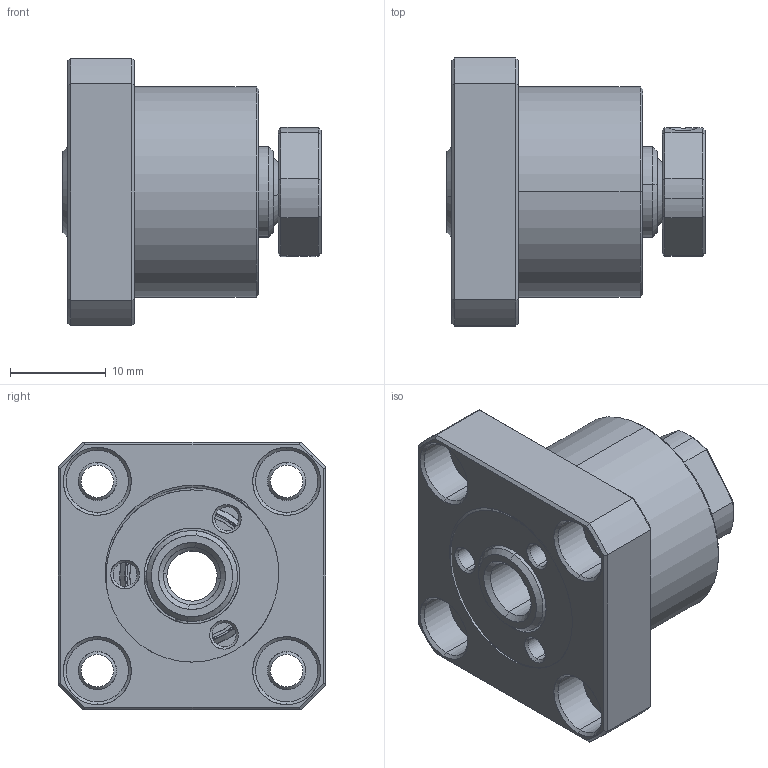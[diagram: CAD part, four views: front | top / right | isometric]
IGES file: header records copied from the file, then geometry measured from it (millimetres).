
Start section: SolidWorks IGES file using analytic representation for surfaces
Bounding box: 27 x 28 x 28 mm (x, y, z)
Surface area: 5595.8 mm2 (no closed solid volume)
Topology: 0 solids, 0 shells, 175 faces, 2264 edges, 2263 vertices
Faces by surface type: revolution 125, bspline 50
